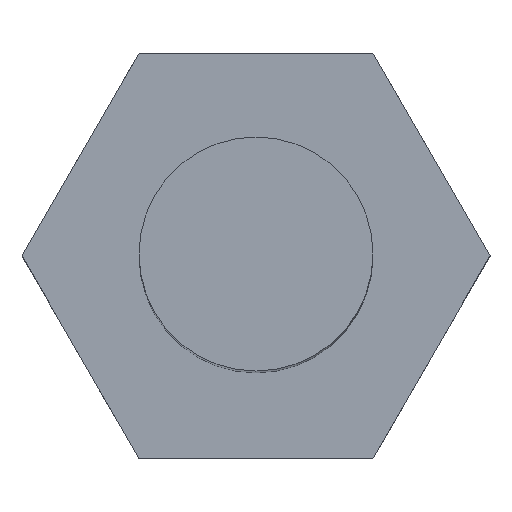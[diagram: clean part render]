
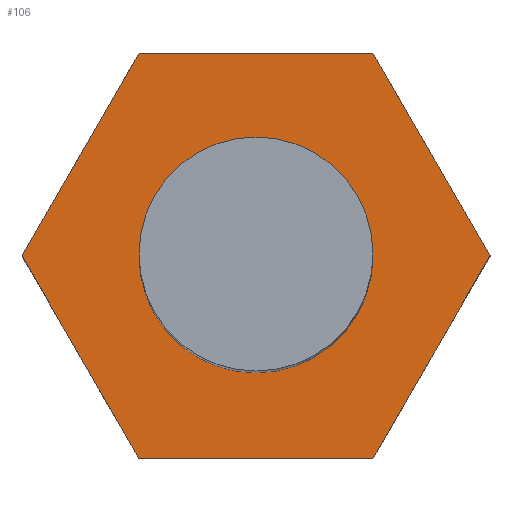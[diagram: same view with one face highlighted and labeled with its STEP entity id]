
A CAD part, top view. The second image highlights one B-rep face of the part: STEP entity #106.
In plain terms, the highlighted planar face has unit normal (0, 0, 1).
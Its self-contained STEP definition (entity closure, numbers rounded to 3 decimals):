
#106=ADVANCED_FACE('',(#132,#126),#117,.T.);
#117=PLANE('',#262);
#126=FACE_BOUND('',#143,.T.);
#129=CIRCLE('',#261,10.);
#132=FACE_OUTER_BOUND('',#142,.T.);
#142=EDGE_LOOP('',(#155,#156,#157,#158,#159,#160));
#143=EDGE_LOOP('',(#161));
#155=ORIENTED_EDGE('',*,*,#214,.T.);
#156=ORIENTED_EDGE('',*,*,#215,.T.);
#157=ORIENTED_EDGE('',*,*,#216,.T.);
#158=ORIENTED_EDGE('',*,*,#217,.T.);
#159=ORIENTED_EDGE('',*,*,#218,.T.);
#160=ORIENTED_EDGE('',*,*,#219,.T.);
#161=ORIENTED_EDGE('',*,*,#220,.F.);
#199=VERTEX_POINT('',#319);
#200=VERTEX_POINT('',#320);
#201=VERTEX_POINT('',#322);
#202=VERTEX_POINT('',#324);
#203=VERTEX_POINT('',#326);
#204=VERTEX_POINT('',#328);
#205=VERTEX_POINT('',#331);
#214=EDGE_CURVE('',#199,#200,#236,.T.);
#215=EDGE_CURVE('',#200,#201,#237,.T.);
#216=EDGE_CURVE('',#201,#202,#238,.T.);
#217=EDGE_CURVE('',#202,#203,#239,.T.);
#218=EDGE_CURVE('',#203,#204,#240,.T.);
#219=EDGE_CURVE('',#204,#199,#241,.T.);
#220=EDGE_CURVE('',#205,#205,#129,.T.);
#236=LINE('',#318,#248);
#237=LINE('',#321,#249);
#238=LINE('',#323,#250);
#239=LINE('',#325,#251);
#240=LINE('',#327,#252);
#241=LINE('',#329,#253);
#248=VECTOR('',#277,1.);
#249=VECTOR('',#278,1.);
#250=VECTOR('',#279,1.);
#251=VECTOR('',#280,1.);
#252=VECTOR('',#281,1.);
#253=VECTOR('',#282,1.);
#261=AXIS2_PLACEMENT_3D('',#330,#283,#284);
#262=AXIS2_PLACEMENT_3D('',#332,#285,#286);
#277=DIRECTION('',(-0.5,-0.866,0.));
#278=DIRECTION('',(0.5,-0.866,0.));
#279=DIRECTION('',(1.,0.,0.));
#280=DIRECTION('',(0.5,0.866,0.));
#281=DIRECTION('',(-0.5,0.866,0.));
#282=DIRECTION('',(-1.,0.,0.));
#283=DIRECTION('',(0.,0.,1.));
#284=DIRECTION('',(0.5,0.866,0.));
#285=DIRECTION('',(0.,0.,1.));
#286=DIRECTION('',(1.,0.,0.));
#318=CARTESIAN_POINT('',(-10.,17.321,15.));
#319=CARTESIAN_POINT('',(-10.,17.321,15.));
#320=CARTESIAN_POINT('',(-20.,0.,15.));
#321=CARTESIAN_POINT('',(-20.,0.,15.));
#322=CARTESIAN_POINT('',(-10.,-17.321,15.));
#323=CARTESIAN_POINT('',(-10.,-17.321,15.));
#324=CARTESIAN_POINT('',(10.,-17.321,15.));
#325=CARTESIAN_POINT('',(10.,-17.321,15.));
#326=CARTESIAN_POINT('',(20.,0.,15.));
#327=CARTESIAN_POINT('',(20.,0.,15.));
#328=CARTESIAN_POINT('',(10.,17.321,15.));
#329=CARTESIAN_POINT('',(10.,17.321,15.));
#330=CARTESIAN_POINT('',(0.,0.,15.));
#331=CARTESIAN_POINT('',(5.,8.66,15.));
#332=CARTESIAN_POINT('',(-30.,-17.321,15.));
